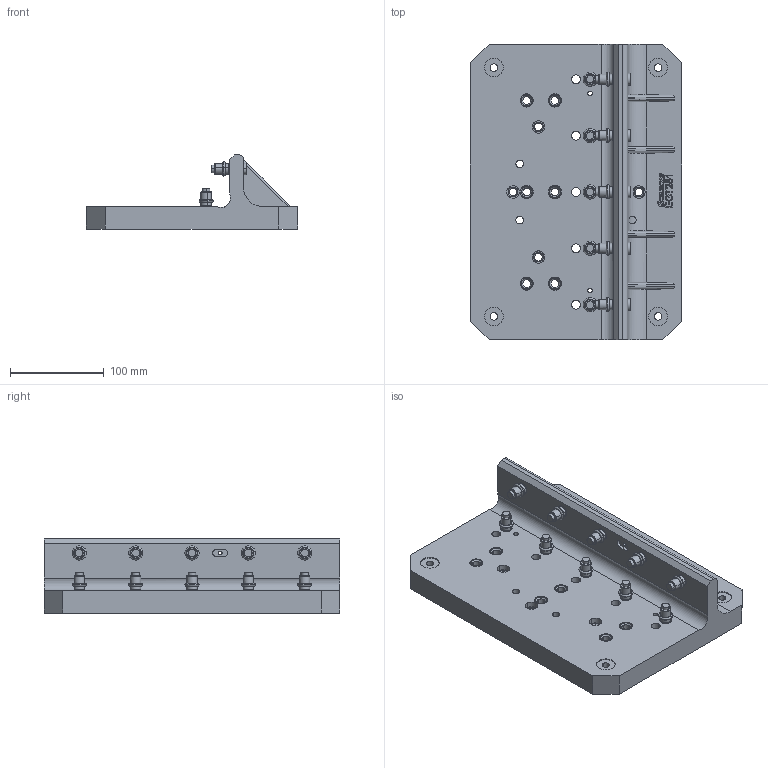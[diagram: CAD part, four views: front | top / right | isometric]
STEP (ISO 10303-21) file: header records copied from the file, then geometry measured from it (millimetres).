
FILE_DESCRIPTION(('CATIA V5 STEP Exchange'),'2;1');
FILE_NAME('\\Uns.com\share\Room\002-\3D\连接件\EGT281.stp','2019-05-17T08:43:40+00:00',('none'),('none'),'CATIA Version 5 Release 21 GA (IN-10)','CATIA V5 STEP AP203','none');
FILE_SCHEMA(('CONFIG_CONTROL_DESIGN'));
Length unit declared in the file: millimetre
Products named in the file (1): EGT281 
Assembly tree (11 placements, depth 2):
  EGT281 
    #58
    #45440  x10
Bounding box: 225 x 315 x 79 mm (x, y, z)
Volume: 1941816.1 mm3; surface area: 275251.8 mm2
Topology: 33 solids, 33 shells, 1724 faces, 4538 edges, 2964 vertices
Faces by surface type: plane 1118, cylinder 326, cone 140, extrusion 100, torus 40
Entity records: 46631 total; most frequent: CARTESIAN_POINT 12017, ORIENTED_EDGE 7620, DIRECTION 6065, EDGE_CURVE 3810, VECTOR 3217, LINE 3117, VERTEX_POINT 2514, AXIS2_PLACEMENT_3D 1597
